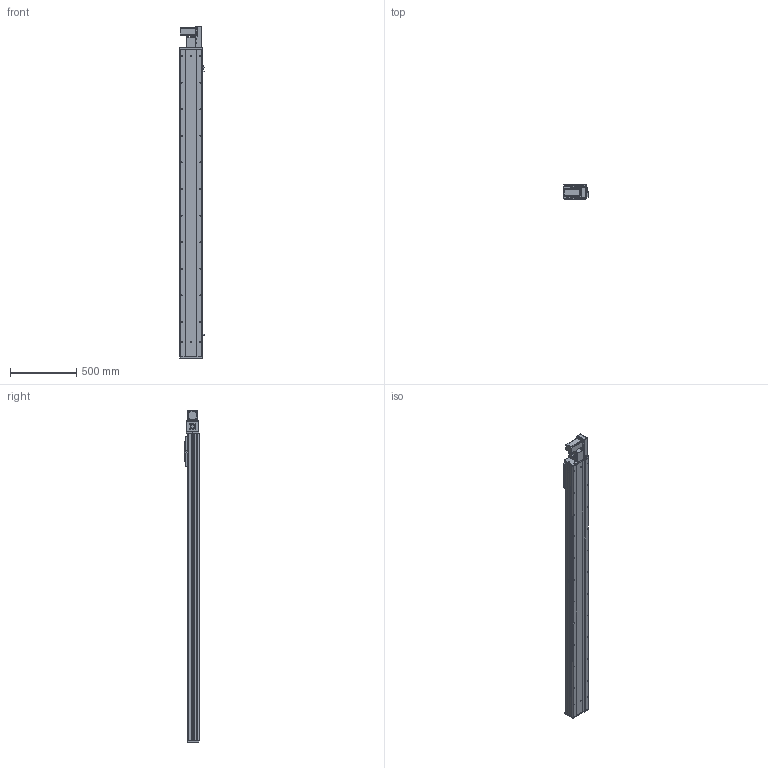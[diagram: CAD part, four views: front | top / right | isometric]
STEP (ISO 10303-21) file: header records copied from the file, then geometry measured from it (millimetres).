
FILE_DESCRIPTION (( 'STEP AP203' ), '1' );
FILE_NAME ('Y170CB-D105-S2000-BR-P400W.STEP', '2020-02-19T09:37:59', ( '微软用户' ), ( '微软中国' ), 'SwSTEP 2.0', 'SolidWorks 2017', '' );
FILE_SCHEMA (( 'CONFIG_CONTROL_DESIGN' ));
Length unit declared in the file: millimetre
Products named in the file (17): Y170CB-D105-S2000-BR-P400W; 70B喘謫眊----; B-源倛裔啣; 17B-耜蚾蟀諉啣----; 0B-萇儂楊擘啣; san松下电机400不带刹车----; Y70俋欶BR----; 70CB-掛极-; --70CB --喘謫眊楊擘啣-; 70CB-耜裔啣-; 70C--詩湍揤踡え-; 70CB--耜裔; 70C-雄赽釱-奻-; 0C--雄赽釱俋欶-170; 70CB-詩湍--; Y100-135俋离換覜ん--; Y170CB-陔俋离換覜結え---
Assembly tree (20 placements, depth 2):
  Y170CB-D105-S2000-BR-P400W
    70B喘謫眊----
    B-源倛裔啣
    17B-耜蚾蟀諉啣----
    0B-萇儂楊擘啣
    san松下电机400不带刹车----
    Y70俋欶BR----
    70CB-掛极-
    --70CB --喘謫眊楊擘啣-
    70CB-耜裔啣-  x2
    70C--詩湍揤踡え-  x2
    70CB--耜裔
    70C-雄赽釱-奻-
    0C--雄赽釱俋欶-170
    70CB-詩湍--
    Y100-135俋离換覜ん--  x3
    Y170CB-陔俋离換覜結え---
Bounding box: 183.5 x 107 x 2497 mm (x, y, z)
Volume: 10469733.8 mm3; surface area: 3767312.6 mm2
Topology: 20 solids, 20 shells, 1033 faces, 2777 edges, 1842 vertices
Faces by surface type: cylinder 547, plane 462, cone 24
Entity records: 32919 total; most frequent: CARTESIAN_POINT 6081, DIRECTION 5356, ORIENTED_EDGE 5036, EDGE_CURVE 2518, AXIS2_PLACEMENT_3D 1965, VERTEX_POINT 1672, VECTOR 1426, LINE 1426
